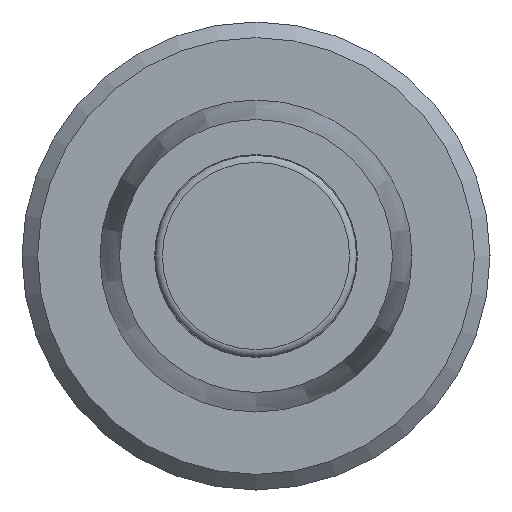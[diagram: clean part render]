
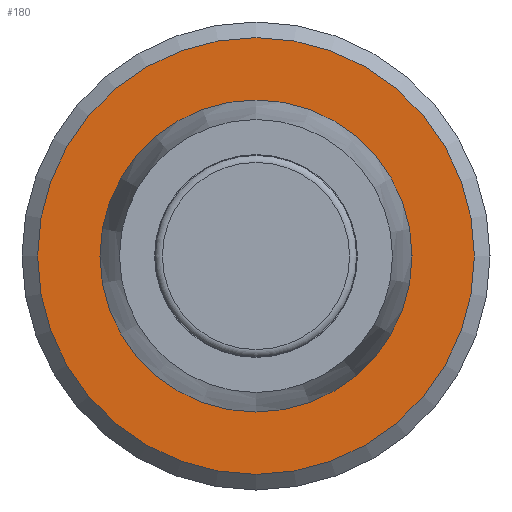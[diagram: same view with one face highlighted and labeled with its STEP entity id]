
A CAD part, left-side view. The second image highlights one B-rep face of the part: STEP entity #180.
In plain terms, the highlighted planar face has unit normal (-1, 0, 0).
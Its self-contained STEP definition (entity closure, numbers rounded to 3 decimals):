
#180 = ADVANCED_FACE( '', ( #241, #242 ), #243, .T. );
#241 = FACE_BOUND( '', #352, .T. );
#242 = FACE_OUTER_BOUND( '', #353, .T. );
#243 = PLANE( '', #354 );
#352 = EDGE_LOOP( '', ( #484 ) );
#353 = EDGE_LOOP( '', ( #485 ) );
#354 = AXIS2_PLACEMENT_3D( '', #486, #487, #488 );
#484 = ORIENTED_EDGE( '', *, *, #626, .T. );
#485 = ORIENTED_EDGE( '', *, *, #625, .F. );
#486 = CARTESIAN_POINT( '', ( 0., 14., 0. ) );
#487 = DIRECTION( '', ( -1., 0., 0. ) );
#488 = DIRECTION( '', ( 0., 0., 1. ) );
#625 = EDGE_CURVE( '', #674, #674, #675, .T. );
#626 = EDGE_CURVE( '', #676, #676, #677, .T. );
#674 = VERTEX_POINT( '', #746 );
#675 = CIRCLE( '', #747, 14. );
#676 = VERTEX_POINT( '', #748 );
#677 = CIRCLE( '', #749, 9.5 );
#746 = CARTESIAN_POINT( '', ( 0., 0., -14. ) );
#747 = AXIS2_PLACEMENT_3D( '', #830, #831, #832 );
#748 = CARTESIAN_POINT( '', ( 0., 0., -9.5 ) );
#749 = AXIS2_PLACEMENT_3D( '', #833, #834, #835 );
#830 = CARTESIAN_POINT( '', ( 0., 0., 0. ) );
#831 = DIRECTION( '', ( 1., 0., 0. ) );
#832 = DIRECTION( '', ( 0., 0., -1. ) );
#833 = CARTESIAN_POINT( '', ( 0., 0., 0. ) );
#834 = DIRECTION( '', ( 1., 0., 0. ) );
#835 = DIRECTION( '', ( 0., 0., -1. ) );
